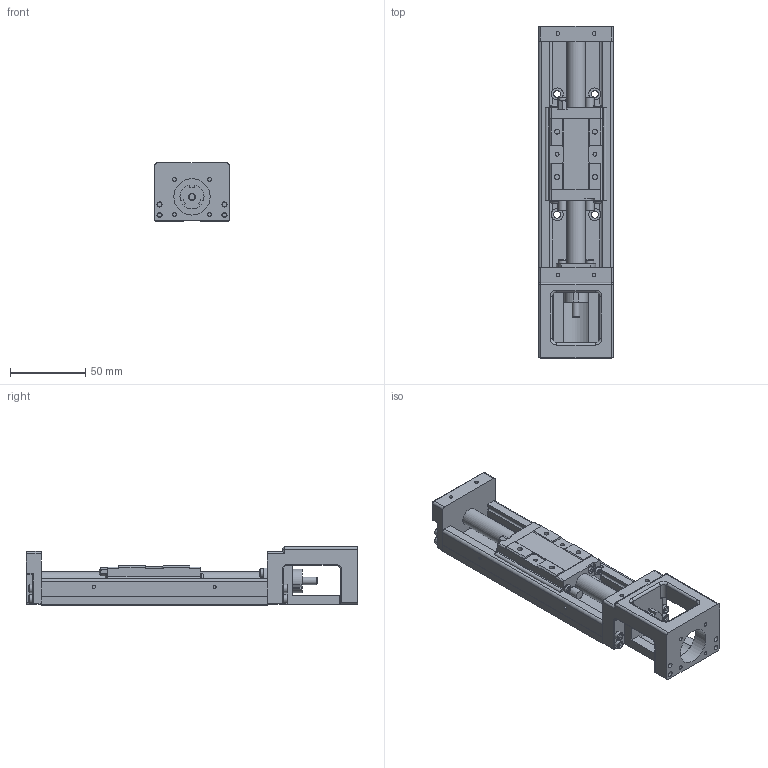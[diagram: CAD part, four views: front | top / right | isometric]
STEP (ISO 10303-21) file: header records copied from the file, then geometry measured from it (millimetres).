
FILE_DESCRIPTION(/* description */ (''),/* implementation_level */ '2;1');
FILE_NAME(/* name */ 'FKL50E150 02C7.stp',/* time_stamp */ '2018-12-26T10:06:04+08:00',/* author */ (''),/* organization */ (''),/* preprocessor_version */ 'ST-DEVELOPER v16',/* originating_system */ 'SIEMENS PLM Software NX 10.0',/* authorisation */ '');
FILE_SCHEMA (('AUTOMOTIVE_DESIGN { 1 0 10303 214 3 1 1 1 }'));
Length unit declared in the file: millimetre
Products named in the file (3): 滑块.KK50-A1; 轨道.KK50-150; FKL50E150 02C7
Assembly tree (2 placements, depth 2):
  FKL50E150 02C7
    轨道.KK50-150
    滑块.KK50-A1
Bounding box: 50 x 220 x 38.5 mm (x, y, z)
Volume: 185277.1 mm3; surface area: 63862.4 mm2
Topology: 2 solids, 5 shells, 610 faces, 1600 edges, 1021 vertices
Faces by surface type: plane 326, cylinder 181, cone 65, torus 28, sphere 4, extrusion 4, bspline 2
Full cylindrical faces by diameter (mm): 2.05 x4, 2.5 x10, 3.3 x5, 3.4 x4, 4 x1, 4.5 x4, 5 x1, 5.5 x16, 6 x4, 8 x4, 11 x1, 12 x2, 24 x1
Entity records: 18718 total; most frequent: CARTESIAN_POINT 3952, DIRECTION 3008, ORIENTED_EDGE 2896, EDGE_CURVE 1448, AXIS2_PLACEMENT_3D 1061, VERTEX_POINT 971, VECTOR 886, LINE 882
